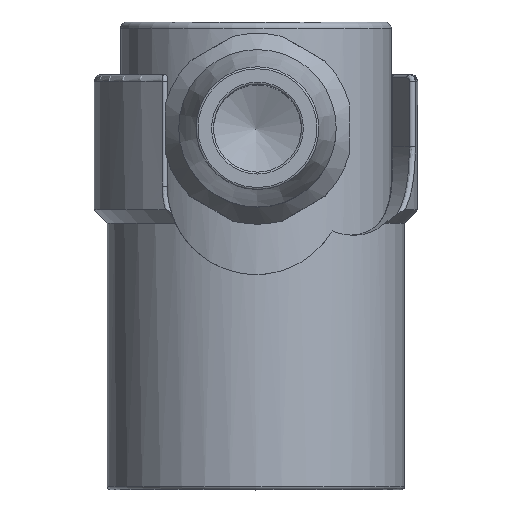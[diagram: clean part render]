
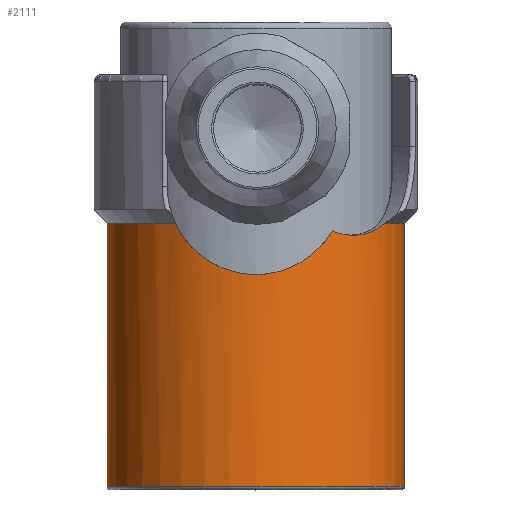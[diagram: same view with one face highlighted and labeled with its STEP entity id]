
A CAD part, top view. The second image highlights one B-rep face of the part: STEP entity #2111.
In plain terms, the highlighted cylindrical face has radius 11.506 mm (diameter 23.012 mm), a full revolution.
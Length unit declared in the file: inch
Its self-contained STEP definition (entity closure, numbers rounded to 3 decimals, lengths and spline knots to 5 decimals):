
#67=B_SPLINE_CURVE_WITH_KNOTS('',3,(#4024,#4025,#4026,#4027,#4028,#4029,
#4030,#4031,#4032,#4033,#4034,#4035,#4036,#4037),.UNSPECIFIED.,.F.,.F.,
(4,2,2,2,2,2,4),(2.48883,2.6654,2.93094,3.19648,
3.46202,3.72756,3.97189),.UNSPECIFIED.);
#70=B_SPLINE_CURVE_WITH_KNOTS('',3,(#4070,#4071,#4072,#4073,#4074,#4075,
#4076,#4077),.UNSPECIFIED.,.F.,.F.,(4,2,2,4),(0.75839,0.84147,
1.13042,1.33905),.UNSPECIFIED.);
#231=FACE_OUTER_BOUND('',#359,.T.);
#359=EDGE_LOOP('',(#1640,#1641,#1642,#1643,#1644,#1645,#1646,#1647));
#470=LINE('',#4082,#564);
#564=VECTOR('',#2830,0.453);
#701=CIRCLE('',#2339,0.453);
#702=CIRCLE('',#2340,0.453);
#706=CIRCLE('',#2351,0.453);
#707=CIRCLE('',#2352,0.453);
#901=VERTEX_POINT('',#4018);
#902=VERTEX_POINT('',#4023);
#906=VERTEX_POINT('',#4054);
#907=VERTEX_POINT('',#4059);
#908=VERTEX_POINT('',#4081);
#909=VERTEX_POINT('',#4083);
#1161=EDGE_CURVE('',#902,#901,#67,.T.);
#1171=EDGE_CURVE('',#906,#907,#701,.T.);
#1172=EDGE_CURVE('',#907,#901,#702,.T.);
#1176=EDGE_CURVE('',#906,#902,#70,.T.);
#1178=EDGE_CURVE('',#907,#908,#470,.T.);
#1179=EDGE_CURVE('',#909,#908,#706,.T.);
#1180=EDGE_CURVE('',#908,#909,#707,.T.);
#1640=ORIENTED_EDGE('',*,*,#1176,.T.);
#1641=ORIENTED_EDGE('',*,*,#1161,.T.);
#1642=ORIENTED_EDGE('',*,*,#1172,.F.);
#1643=ORIENTED_EDGE('',*,*,#1178,.T.);
#1644=ORIENTED_EDGE('',*,*,#1179,.F.);
#1645=ORIENTED_EDGE('',*,*,#1180,.F.);
#1646=ORIENTED_EDGE('',*,*,#1178,.F.);
#1647=ORIENTED_EDGE('',*,*,#1171,.F.);
#2034=CYLINDRICAL_SURFACE('',#2350,0.453);
#2111=ADVANCED_FACE('',(#231),#2034,.T.);
#2339=AXIS2_PLACEMENT_3D('',#4060,#2805,#2806);
#2340=AXIS2_PLACEMENT_3D('',#4061,#2807,#2808);
#2350=AXIS2_PLACEMENT_3D('',#4080,#2828,#2829);
#2351=AXIS2_PLACEMENT_3D('',#4084,#2831,#2832);
#2352=AXIS2_PLACEMENT_3D('',#4085,#2833,#2834);
#2805=DIRECTION('center_axis',(0.,1.,0.));
#2806=DIRECTION('ref_axis',(1.,0.,0.));
#2807=DIRECTION('center_axis',(0.,1.,0.));
#2808=DIRECTION('ref_axis',(1.,0.,0.));
#2828=DIRECTION('center_axis',(0.,1.,0.));
#2829=DIRECTION('ref_axis',(0.,0.,1.));
#2830=DIRECTION('',(0.,-1.,0.));
#2831=DIRECTION('center_axis',(0.,-1.,0.));
#2832=DIRECTION('ref_axis',(0.,0.,-1.));
#2833=DIRECTION('center_axis',(0.,-1.,0.));
#2834=DIRECTION('ref_axis',(0.,0.,-1.));
#4018=CARTESIAN_POINT('',(-0.24522,0.812,0.38089));
#4023=CARTESIAN_POINT('',(0.23267,0.78802,0.38868));
#4024=CARTESIAN_POINT('Ctrl Pts',(0.23267,0.78802,0.38868));
#4025=CARTESIAN_POINT('Ctrl Pts',(0.22081,0.76788,0.39578));
#4026=CARTESIAN_POINT('Ctrl Pts',(0.20648,0.74965,0.40357));
#4027=CARTESIAN_POINT('Ctrl Pts',(0.16751,0.71067,0.42168));
#4028=CARTESIAN_POINT('Ctrl Pts',(0.13774,0.69001,0.4329));
#4029=CARTESIAN_POINT('Ctrl Pts',(0.07143,0.66215,
0.44863));
#4030=CARTESIAN_POINT('Ctrl Pts',(0.03485,0.655,
0.453));
#4031=CARTESIAN_POINT('Ctrl Pts',(-0.03485,0.655,
0.453));
#4032=CARTESIAN_POINT('Ctrl Pts',(-0.07143,0.66215,
0.44863));
#4033=CARTESIAN_POINT('Ctrl Pts',(-0.13774,0.69001,
0.4329));
#4034=CARTESIAN_POINT('Ctrl Pts',(-0.16751,0.71067,
0.42168));
#4035=CARTESIAN_POINT('Ctrl Pts',(-0.21246,0.75562,
0.40079));
#4036=CARTESIAN_POINT('Ctrl Pts',(-0.23153,0.78231,
0.3897));
#4037=CARTESIAN_POINT('Ctrl Pts',(-0.24522,0.812,0.38089));
#4054=CARTESIAN_POINT('',(0.39226,0.812,0.22658));
#4059=CARTESIAN_POINT('',(0.,0.812,-0.453));
#4060=CARTESIAN_POINT('Origin',(0.,0.812,0.));
#4061=CARTESIAN_POINT('Origin',(0.,0.812,0.));
#4070=CARTESIAN_POINT('Ctrl Pts',(0.39226,0.812,0.22658));
#4071=CARTESIAN_POINT('Ctrl Pts',(0.38711,0.80678,0.2355));
#4072=CARTESIAN_POINT('Ctrl Pts',(0.38153,0.80201,0.24446));
#4073=CARTESIAN_POINT('Ctrl Pts',(0.35463,0.78304,0.28432));
#4074=CARTESIAN_POINT('Ctrl Pts',(0.32835,0.775,0.31438));
#4075=CARTESIAN_POINT('Ctrl Pts',(0.27941,0.775,0.35762));
#4076=CARTESIAN_POINT('Ctrl Pts',(0.25619,0.77919,0.3746));
#4077=CARTESIAN_POINT('Ctrl Pts',(0.23267,0.78802,0.38868));
#4080=CARTESIAN_POINT('Origin',(0.,0.406,0.));
#4081=CARTESIAN_POINT('',(0.,0.01,-0.453));
#4082=CARTESIAN_POINT('',(0.,0.406,-0.453));
#4083=CARTESIAN_POINT('',(0.,0.01,0.453));
#4084=CARTESIAN_POINT('Origin',(0.,0.01,0.));
#4085=CARTESIAN_POINT('Origin',(0.,0.01,0.));
